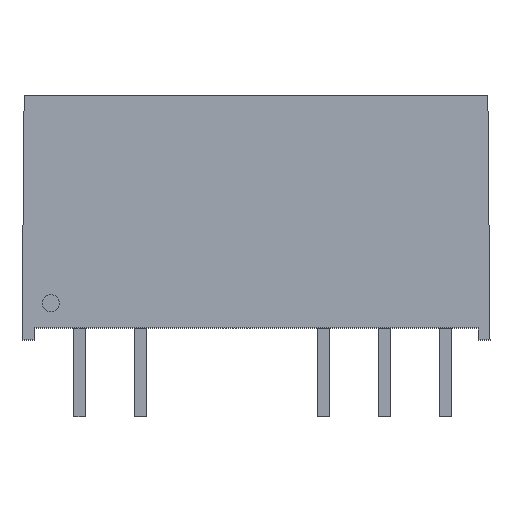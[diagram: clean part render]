
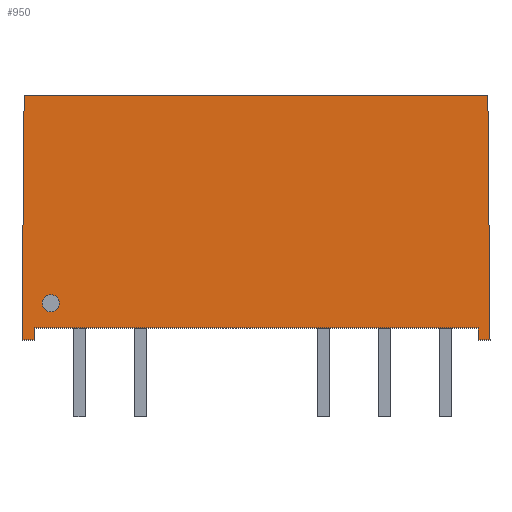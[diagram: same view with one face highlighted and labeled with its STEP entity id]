
A CAD part, top view. The second image highlights one B-rep face of the part: STEP entity #950.
In plain terms, the highlighted planar face has unit normal (0, 0.009, 1).
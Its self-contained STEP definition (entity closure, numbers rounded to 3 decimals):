
#1 = LINE ( 'NONE', #141, #899 ) ;
#17 = VECTOR ( 'NONE', #723, 1000. ) ;
#19 = CARTESIAN_POINT ( 'NONE',  ( 0., 0., -21.994 ) ) ;
#36 = CARTESIAN_POINT ( 'NONE',  ( -41.887, 1.163, -22.004 ) ) ;
#46 = DIRECTION ( 'NONE',  ( 0., 0.009, 1. ) ) ;
#54 = VECTOR ( 'NONE', #803, 1000. ) ;
#80 = EDGE_CURVE ( 'NONE', #531, #795, #786, .T. ) ;
#97 = LINE ( 'NONE', #916, #988 ) ;
#109 = AXIS2_PLACEMENT_3D ( 'NONE', #823, #903, #389 ) ;
#124 = LINE ( 'NONE', #1002, #594 ) ;
#141 = CARTESIAN_POINT ( 'NONE',  ( -23.587, -0.206, -21.992 ) ) ;
#170 = EDGE_LOOP ( 'NONE', ( #695, #576 ) ) ;
#171 = VERTEX_POINT ( 'NONE', #36 ) ;
#186 = CARTESIAN_POINT ( 'NONE',  ( -43.088, 0., -21.994 ) ) ;
#206 = EDGE_CURVE ( 'NONE', #171, #518, #624, .T. ) ;
#207 = LINE ( 'NONE', #981, #1103 ) ;
#213 = VERTEX_POINT ( 'NONE', #728 ) ;
#219 = VECTOR ( 'NONE', #841, 1000. ) ;
#241 = ORIENTED_EDGE ( 'NONE', *, *, #365, .T. ) ;
#275 = ORIENTED_EDGE ( 'NONE', *, *, #663, .T. ) ;
#297 = ORIENTED_EDGE ( 'NONE', *, *, #685, .T. ) ;
#300 = PLANE ( 'NONE',  #109 ) ;
#310 = EDGE_CURVE ( 'NONE', #518, #171, #862, .T. ) ;
#322 = DIRECTION ( 'NONE',  ( -0.009, -1., 0.009 ) ) ;
#330 = CARTESIAN_POINT ( 'NONE',  ( -24.088, 0.5, -21.998 ) ) ;
#347 = AXIS2_PLACEMENT_3D ( 'NONE', #577, #46, #658 ) ;
#351 = EDGE_CURVE ( 'NONE', #359, #1019, #124, .T. ) ;
#359 = VERTEX_POINT ( 'NONE', #755 ) ;
#365 = EDGE_CURVE ( 'NONE', #531, #648, #97, .T. ) ;
#375 = CARTESIAN_POINT ( 'NONE',  ( -41.887, 1.522, -22.007 ) ) ;
#389 = DIRECTION ( 'NONE',  ( 0., -1., 0.009 ) ) ;
#416 = EDGE_LOOP ( 'NONE', ( #617, #297, #506, #686, #241, #275, #856, #845 ) ) ;
#443 = FACE_BOUND ( 'NONE', #170, .T. ) ;
#444 = EDGE_CURVE ( 'NONE', #1019, #938, #912, .T. ) ;
#455 = CARTESIAN_POINT ( 'NONE',  ( 0., 10.2, -22.083 ) ) ;
#465 = DIRECTION ( 'NONE',  ( 0., -1., 0.009 ) ) ;
#496 = LINE ( 'NONE', #19, #17 ) ;
#497 = DIRECTION ( 'NONE',  ( 1., 0., 0. ) ) ;
#506 = ORIENTED_EDGE ( 'NONE', *, *, #906, .F. ) ;
#518 = VERTEX_POINT ( 'NONE', #783 ) ;
#531 = VERTEX_POINT ( 'NONE', #703 ) ;
#550 = DIRECTION ( 'NONE',  ( 1., 0., 0. ) ) ;
#560 = VECTOR ( 'NONE', #550, 1000. ) ;
#561 = DIRECTION ( 'NONE',  ( 0., -1., 0.009 ) ) ;
#576 = ORIENTED_EDGE ( 'NONE', *, *, #310, .F. ) ;
#577 = CARTESIAN_POINT ( 'NONE',  ( -41.887, 1.522, -22.007 ) ) ;
#594 = VECTOR ( 'NONE', #497, 1000. ) ;
#617 = ORIENTED_EDGE ( 'NONE', *, *, #444, .T. ) ;
#624 = CIRCLE ( 'NONE', #1046, 0.359 ) ;
#648 = VERTEX_POINT ( 'NONE', #186 ) ;
#657 = CARTESIAN_POINT ( 'NONE',  ( -23.678, 10.2, -22.083 ) ) ;
#658 = DIRECTION ( 'NONE',  ( 0., -1., 0.009 ) ) ;
#661 = CARTESIAN_POINT ( 'NONE',  ( -24.088, 0.5, -21.998 ) ) ;
#663 = EDGE_CURVE ( 'NONE', #648, #213, #720, .T. ) ;
#670 = VERTEX_POINT ( 'NONE', #882 ) ;
#682 = FACE_OUTER_BOUND ( 'NONE', #416, .T. ) ;
#685 = EDGE_CURVE ( 'NONE', #938, #670, #496, .T. ) ;
#686 = ORIENTED_EDGE ( 'NONE', *, *, #80, .F. ) ;
#695 = ORIENTED_EDGE ( 'NONE', *, *, #206, .F. ) ;
#703 = CARTESIAN_POINT ( 'NONE',  ( -42.999, 10.2, -22.083 ) ) ;
#720 = LINE ( 'NONE', #721, #54 ) ;
#721 = CARTESIAN_POINT ( 'NONE',  ( 0., 0., -21.994 ) ) ;
#723 = DIRECTION ( 'NONE',  ( 1., 0., 0. ) ) ;
#728 = CARTESIAN_POINT ( 'NONE',  ( -42.588, 0., -21.994 ) ) ;
#755 = CARTESIAN_POINT ( 'NONE',  ( -42.588, 0.5, -21.998 ) ) ;
#783 = CARTESIAN_POINT ( 'NONE',  ( -41.887, 1.881, -22.01 ) ) ;
#786 = LINE ( 'NONE', #455, #560 ) ;
#795 = VERTEX_POINT ( 'NONE', #657 ) ;
#803 = DIRECTION ( 'NONE',  ( 1., 0., 0. ) ) ;
#823 = CARTESIAN_POINT ( 'NONE',  ( 0., 0., -21.994 ) ) ;
#841 = DIRECTION ( 'NONE',  ( 0., -1., 0.009 ) ) ;
#845 = ORIENTED_EDGE ( 'NONE', *, *, #351, .T. ) ;
#856 = ORIENTED_EDGE ( 'NONE', *, *, #915, .F. ) ;
#862 = CIRCLE ( 'NONE', #347, 0.359 ) ;
#882 = CARTESIAN_POINT ( 'NONE',  ( -23.588, 0., -21.994 ) ) ;
#893 = DIRECTION ( 'NONE',  ( 0.009, -1., 0.009 ) ) ;
#897 = CARTESIAN_POINT ( 'NONE',  ( -24.088, 0., -21.994 ) ) ;
#899 = VECTOR ( 'NONE', #893, 1000. ) ;
#903 = DIRECTION ( 'NONE',  ( 0., 0.009, 1. ) ) ;
#906 = EDGE_CURVE ( 'NONE', #795, #670, #1, .T. ) ;
#912 = LINE ( 'NONE', #330, #219 ) ;
#915 = EDGE_CURVE ( 'NONE', #359, #213, #207, .T. ) ;
#916 = CARTESIAN_POINT ( 'NONE',  ( -43.085, 0.376, -21.997 ) ) ;
#938 = VERTEX_POINT ( 'NONE', #897 ) ;
#950 = ADVANCED_FACE ( 'NONE', ( #443, #682 ), #300, .T. ) ;
#979 = DIRECTION ( 'NONE',  ( 0., 0.009, 1. ) ) ;
#981 = CARTESIAN_POINT ( 'NONE',  ( -42.588, 0.5, -21.998 ) ) ;
#988 = VECTOR ( 'NONE', #322, 1000. ) ;
#1002 = CARTESIAN_POINT ( 'NONE',  ( 0., 0.5, -21.998 ) ) ;
#1019 = VERTEX_POINT ( 'NONE', #661 ) ;
#1046 = AXIS2_PLACEMENT_3D ( 'NONE', #375, #979, #465 ) ;
#1103 = VECTOR ( 'NONE', #561, 1000. ) ;
